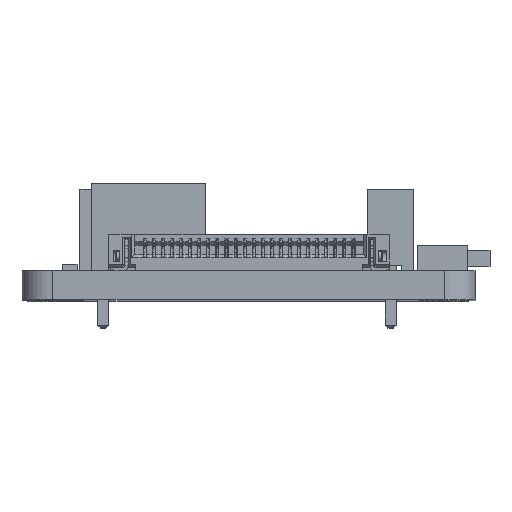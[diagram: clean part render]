
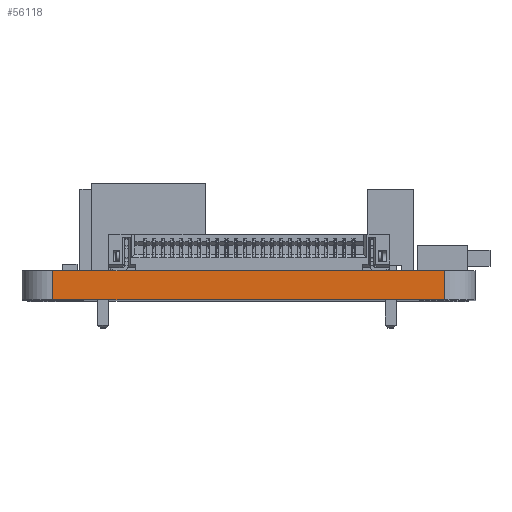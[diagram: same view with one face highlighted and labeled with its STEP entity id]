
A CAD part, top view. The second image highlights one B-rep face of the part: STEP entity #56118.
In plain terms, the highlighted planar face has unit normal (0, 0, 1).
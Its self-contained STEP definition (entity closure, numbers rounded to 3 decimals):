
#3919=FACE_OUTER_BOUND('',#6959,.T.);
#6959=EDGE_LOOP('',(#38113,#38114,#38115,#38116));
#9885=LINE('',#80064,#16132);
#9914=LINE('',#80178,#16161);
#9966=LINE('',#80463,#16213);
#9967=LINE('',#80465,#16214);
#16132=VECTOR('',#64049,10.);
#16161=VECTOR('',#64170,10.);
#16213=VECTOR('',#64532,10.);
#16214=VECTOR('',#64535,10.);
#24273=VERTEX_POINT('',#80061);
#24274=VERTEX_POINT('',#80063);
#24312=VERTEX_POINT('',#80175);
#24313=VERTEX_POINT('',#80177);
#29580=EDGE_CURVE('',#24273,#24274,#9885,.T.);
#29637=EDGE_CURVE('',#24312,#24313,#9914,.T.);
#29766=EDGE_CURVE('',#24312,#24274,#9966,.T.);
#29767=EDGE_CURVE('',#24313,#24273,#9967,.T.);
#38113=ORIENTED_EDGE('',*,*,#29637,.F.);
#38114=ORIENTED_EDGE('',*,*,#29766,.T.);
#38115=ORIENTED_EDGE('',*,*,#29580,.F.);
#38116=ORIENTED_EDGE('',*,*,#29767,.F.);
#54026=PLANE('',#59335);
#56118=ADVANCED_FACE('',(#3919),#54026,.T.);
#59335=AXIS2_PLACEMENT_3D('',#80464,#64533,#64534);
#64049=DIRECTION('',(-1.,0.,0.));
#64170=DIRECTION('',(1.,0.,0.));
#64532=DIRECTION('',(0.,-1.,0.));
#64533=DIRECTION('center_axis',(0.,0.,
1.));
#64534=DIRECTION('ref_axis',(-1.,0.,0.));
#64535=DIRECTION('',(0.,-1.,0.));
#80061=CARTESIAN_POINT('',(14.279,-16.575,21.918));
#80063=CARTESIAN_POINT('',(-7.321,-16.575,21.918));
#80064=CARTESIAN_POINT('',(-7.321,-16.575,21.918));
#80175=CARTESIAN_POINT('',(-7.321,-14.975,21.918));
#80177=CARTESIAN_POINT('',(14.279,-14.975,21.918));
#80178=CARTESIAN_POINT('',(-7.321,-14.975,21.918));
#80463=CARTESIAN_POINT('',(-7.321,-14.975,21.918));
#80464=CARTESIAN_POINT('Origin',(14.279,-14.975,21.918));
#80465=CARTESIAN_POINT('',(14.279,-14.975,21.918));
